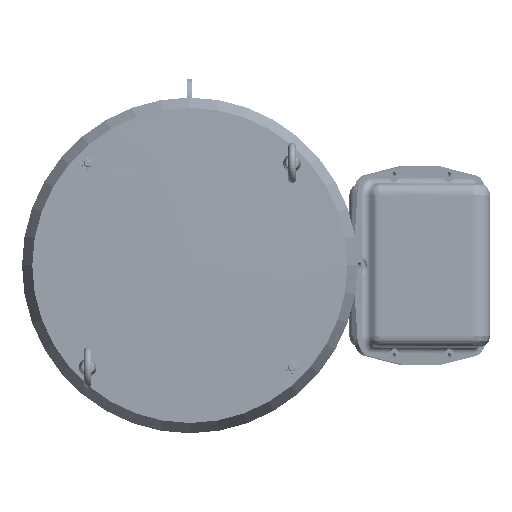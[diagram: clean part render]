
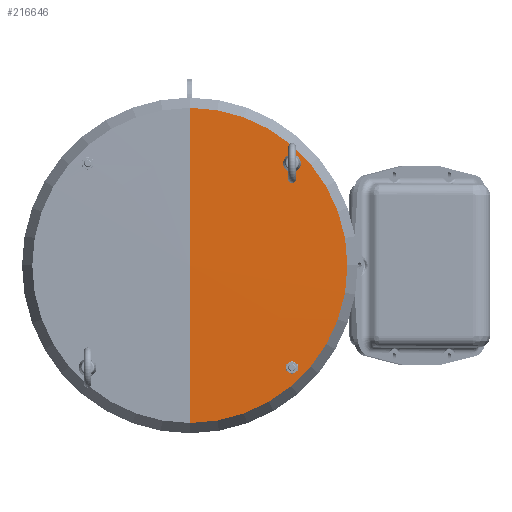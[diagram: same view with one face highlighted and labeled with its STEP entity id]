
A CAD part, top view. The second image highlights one B-rep face of the part: STEP entity #216646.
In plain terms, the highlighted conical face has half-angle 89.586 degrees and reference radius 101.559 mm.
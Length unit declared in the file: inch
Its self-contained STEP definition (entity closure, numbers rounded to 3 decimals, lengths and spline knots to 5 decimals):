
#216330=DIRECTION('',(0.,-1.,0.007));
#216331=VECTOR('',#216330,7.8402);
#216332=CARTESIAN_POINT('',(0.,7.84,0.88335));
#216333=LINE('',#216332,#216331);
#216334=CARTESIAN_POINT('',(0.,0.,0.88335));
#216335=DIRECTION('',(0.,0.,-1.));
#216336=DIRECTION('',(0.,1.,0.));
#216337=AXIS2_PLACEMENT_3D('',#216334,#216335,#216336);
#216339=DIRECTION('',(0.,1.,0.007));
#216340=VECTOR('',#216339,7.8402);
#216341=CARTESIAN_POINT('',(0.,-7.84,0.88335));
#216342=LINE('',#216341,#216340);
#216343=CARTESIAN_POINT('',(5.30133,-5.08233,
0.88693));
#216344=CARTESIAN_POINT('',(5.30133,-5.0594,
0.88704));
#216345=CARTESIAN_POINT('',(5.29407,-5.01353,
0.88731));
#216346=CARTESIAN_POINT('',(5.26244,-4.95147,
0.88779));
#216347=CARTESIAN_POINT('',(5.21319,-4.90222,
0.88829));
#216348=CARTESIAN_POINT('',(5.15112,-4.87059,
0.88877));
#216349=CARTESIAN_POINT('',(5.08233,-4.8597,
0.88919));
#216350=CARTESIAN_POINT('',(5.01353,-4.8706,
0.88949));
#216351=CARTESIAN_POINT('',(4.95147,-4.90222,
0.88965));
#216352=CARTESIAN_POINT('',(4.90222,-4.95147,
0.88965));
#216353=CARTESIAN_POINT('',(4.87059,-5.01353,
0.88949));
#216354=CARTESIAN_POINT('',(4.86333,-5.0594,
0.88929));
#216355=CARTESIAN_POINT('',(4.86333,-5.08233,
0.88917));
#216357=CARTESIAN_POINT('',(4.86333,-5.08233,
0.88917));
#216358=CARTESIAN_POINT('',(4.86333,-5.10526,
0.88905));
#216359=CARTESIAN_POINT('',(4.87059,-5.15113,
0.88877));
#216360=CARTESIAN_POINT('',(4.90222,-5.21319,
0.88829));
#216361=CARTESIAN_POINT('',(4.95147,-5.26244,
0.88779));
#216362=CARTESIAN_POINT('',(5.01354,-5.29407,
0.88731));
#216363=CARTESIAN_POINT('',(5.08233,-5.30496,
0.88691));
#216364=CARTESIAN_POINT('',(5.15113,-5.29406,
0.88662));
#216365=CARTESIAN_POINT('',(5.21319,-5.26244,
0.88647));
#216366=CARTESIAN_POINT('',(5.26244,-5.21319,
0.88647));
#216367=CARTESIAN_POINT('',(5.29407,-5.15113,
0.88662));
#216368=CARTESIAN_POINT('',(5.30133,-5.10526,
0.88682));
#216369=CARTESIAN_POINT('',(5.30133,-5.08233,
0.88693));
#216371=CARTESIAN_POINT('',(5.30133,5.08233,
0.88693));
#216372=CARTESIAN_POINT('',(5.30133,5.10526,
0.88682));
#216373=CARTESIAN_POINT('',(5.29407,5.15113,
0.88662));
#216374=CARTESIAN_POINT('',(5.26244,5.21319,
0.88647));
#216375=CARTESIAN_POINT('',(5.21319,5.26244,
0.88647));
#216376=CARTESIAN_POINT('',(5.15113,5.29406,
0.88662));
#216377=CARTESIAN_POINT('',(5.08233,5.30496,
0.88691));
#216378=CARTESIAN_POINT('',(5.01354,5.29407,
0.88731));
#216379=CARTESIAN_POINT('',(4.95147,5.26244,
0.88779));
#216380=CARTESIAN_POINT('',(4.90222,5.21319,
0.88829));
#216381=CARTESIAN_POINT('',(4.87059,5.15113,
0.88877));
#216382=CARTESIAN_POINT('',(4.86333,5.10526,
0.88905));
#216383=CARTESIAN_POINT('',(4.86333,5.08233,
0.88917));
#216385=CARTESIAN_POINT('',(4.86333,5.08233,
0.88917));
#216386=CARTESIAN_POINT('',(4.86333,5.0594,
0.88929));
#216387=CARTESIAN_POINT('',(4.87059,5.01353,
0.88949));
#216388=CARTESIAN_POINT('',(4.90222,4.95147,
0.88965));
#216389=CARTESIAN_POINT('',(4.95147,4.90222,
0.88965));
#216390=CARTESIAN_POINT('',(5.01353,4.8706,
0.88949));
#216391=CARTESIAN_POINT('',(5.08233,4.8597,
0.88919));
#216392=CARTESIAN_POINT('',(5.15112,4.87059,
0.88877));
#216393=CARTESIAN_POINT('',(5.21319,4.90222,
0.88829));
#216394=CARTESIAN_POINT('',(5.26244,4.95147,
0.88779));
#216395=CARTESIAN_POINT('',(5.29407,5.01353,
0.88731));
#216396=CARTESIAN_POINT('',(5.30133,5.0594,
0.88704));
#216397=CARTESIAN_POINT('',(5.30133,5.08233,
0.88693));
#216428=CARTESIAN_POINT('',(0.,7.84,0.88335));
#216430=VERTEX_POINT('',#216428);
#216431=CARTESIAN_POINT('',(0.,0.,0.94));
#216432=VERTEX_POINT('',#216431);
#216440=CARTESIAN_POINT('',(0.,-7.84,0.88335));
#216442=VERTEX_POINT('',#216440);
#216451=VERTEX_POINT('',#216343);
#216452=VERTEX_POINT('',#216355);
#216459=VERTEX_POINT('',#216371);
#216460=VERTEX_POINT('',#216383);
#216624=CARTESIAN_POINT('',(0.,0.,0.91111));
#216625=DIRECTION('',(0.,0.,-1.));
#216626=DIRECTION('',(0.,-1.,0.));
#216627=AXIS2_PLACEMENT_3D('',#216624,#216625,#216626);
#216628=CONICAL_SURFACE('',#216627,3.9984,89.586);
#216629=ORIENTED_EDGE('',*,*,#216605,.F.);
#216630=ORIENTED_EDGE('',*,*,#216488,.T.);
#216631=ORIENTED_EDGE('',*,*,#216607,.T.);
#216632=EDGE_LOOP('',(#216629,#216630,#216631));
#216633=FACE_OUTER_BOUND('',#216632,.F.);
#216635=ORIENTED_EDGE('',*,*,#216634,.T.);
#216637=ORIENTED_EDGE('',*,*,#216636,.T.);
#216638=EDGE_LOOP('',(#216635,#216637));
#216639=FACE_BOUND('',#216638,.F.);
#216641=ORIENTED_EDGE('',*,*,#216640,.T.);
#216643=ORIENTED_EDGE('',*,*,#216642,.T.);
#216644=EDGE_LOOP('',(#216641,#216643));
#216645=FACE_BOUND('',#216644,.F.);
#216646=ADVANCED_FACE('',(#216633,#216639,#216645),#216628,.T.);
#216338=CIRCLE('',#216337,7.84);
#216356=B_SPLINE_CURVE_WITH_KNOTS('',3,(#216343,#216344,#216345,#216346,#216347,
#216348,#216349,#216350,#216351,#216352,#216353,#216354,#216355),.UNSPECIFIED.,
.F.,.F.,(4,1,1,1,1,1,1,1,1,1,4),(0.,0.1,0.2,0.3,0.4,0.5,0.6,0.7,
0.8,0.9,1.),.UNSPECIFIED.);
#216370=B_SPLINE_CURVE_WITH_KNOTS('',3,(#216357,#216358,#216359,#216360,#216361,
#216362,#216363,#216364,#216365,#216366,#216367,#216368,#216369),.UNSPECIFIED.,
.F.,.F.,(4,1,1,1,1,1,1,1,1,1,4),(0.,0.1,0.2,0.3,0.4,0.5,0.6,0.7,
0.8,0.9,1.),.UNSPECIFIED.);
#216384=B_SPLINE_CURVE_WITH_KNOTS('',3,(#216371,#216372,#216373,#216374,#216375,
#216376,#216377,#216378,#216379,#216380,#216381,#216382,#216383),.UNSPECIFIED.,
.F.,.F.,(4,1,1,1,1,1,1,1,1,1,4),(0.,0.1,0.2,0.3,0.4,0.5,0.6,0.7,
0.8,0.9,1.),.UNSPECIFIED.);
#216398=B_SPLINE_CURVE_WITH_KNOTS('',3,(#216385,#216386,#216387,#216388,#216389,
#216390,#216391,#216392,#216393,#216394,#216395,#216396,#216397),.UNSPECIFIED.,
.F.,.F.,(4,1,1,1,1,1,1,1,1,1,4),(0.,0.1,0.2,0.3,0.4,0.5,0.6,0.7,
0.8,0.9,1.),.UNSPECIFIED.);
#216488=EDGE_CURVE('',#216430,#216442,#216338,.T.);
#216605=EDGE_CURVE('',#216430,#216432,#216333,.T.);
#216607=EDGE_CURVE('',#216442,#216432,#216342,.T.);
#216634=EDGE_CURVE('',#216451,#216452,#216356,.T.);
#216636=EDGE_CURVE('',#216452,#216451,#216370,.T.);
#216640=EDGE_CURVE('',#216459,#216460,#216384,.T.);
#216642=EDGE_CURVE('',#216460,#216459,#216398,.T.);
